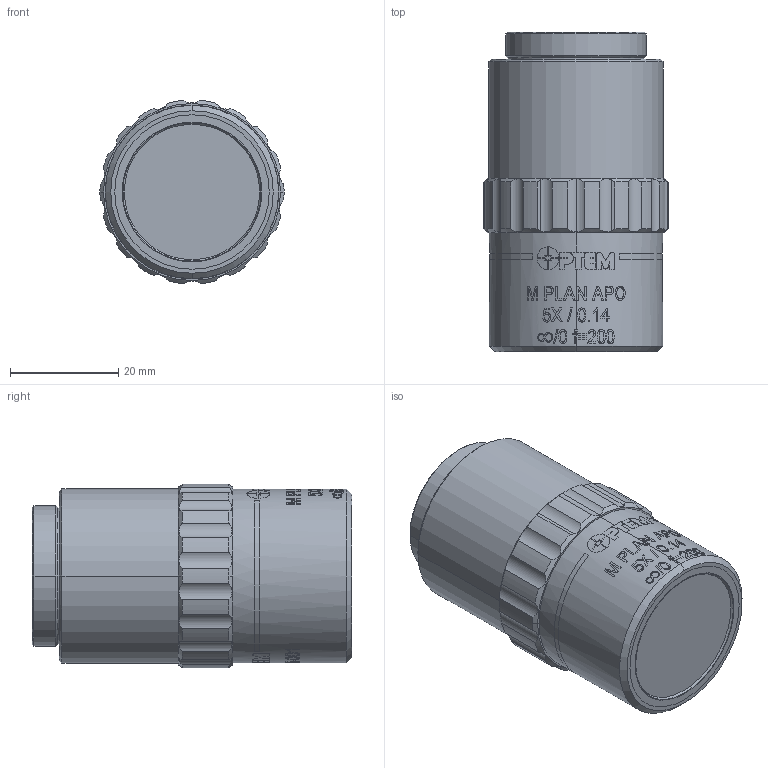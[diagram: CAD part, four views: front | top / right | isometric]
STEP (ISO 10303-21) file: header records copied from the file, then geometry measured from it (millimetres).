
FILE_DESCRIPTION (( 'STEP AP203' ), '1' );
FILE_NAME ('28-21-05-001 OUTLINE.STEP', '2018-06-25T23:42:55', ( '' ), ( '' ), 'SwSTEP 2.0', 'SolidWorks 2017', '' );
FILE_SCHEMA (( 'CONFIG_CONTROL_DESIGN' ));
Length unit declared in the file: millimetre
Products named in the file (1): 28-21-05-001 OUTLINE
Bounding box: 34 x 59 x 33.87 mm (x, y, z)
Volume: 45953.4 mm3; surface area: 12386.6 mm2
Topology: 2 solids, 2 shells, 175 faces, 780 edges, 685 vertices
Faces by surface type: cylinder 140, cone 24, plane 11
Entity records: 14099 total; most frequent: CARTESIAN_POINT 7660, ORIENTED_EDGE 1560, DIRECTION 1060, EDGE_CURVE 780, VERTEX_POINT 685, AXIS2_PLACEMENT_3D 425, B_SPLINE_CURVE_WITH_KNOTS 321, EDGE_LOOP 253
